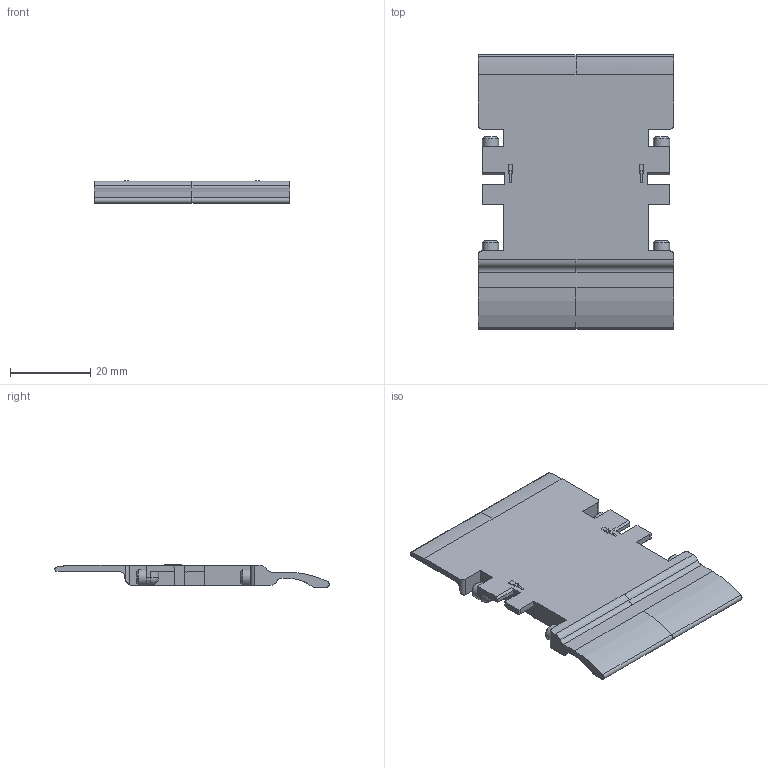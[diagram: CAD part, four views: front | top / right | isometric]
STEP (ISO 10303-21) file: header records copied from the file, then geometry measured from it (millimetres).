
FILE_DESCRIPTION((''),'2;1');
FILE_NAME('C:\Uebbing\PARAMETERKETTEN\KOLIBRI\Kol_50_065_5\Kol_50_065_5_Klappdeckel.stp','2011-11-02T13:09:38',('Uebbing'),(''),'Autodesk Inventor 10','Autodesk Inventor 10','');
FILE_SCHEMA(('AUTOMOTIVE_DESIGN { 1 0 10303 214 1 1 1 1 }'));
Length unit declared in the file: millimetre
Products named in the file (1): Kol_50_065_5_Klappdeckel
Bounding box: 48.6 x 68.34 x 5.7 mm (x, y, z)
Volume: 9853.6 mm3; surface area: 7218.5 mm2
Topology: 1 solids, 1 shells, 152 faces, 416 edges, 267 vertices
Faces by surface type: plane 96, cylinder 48, cone 6, sphere 2
Full cylindrical faces by diameter (mm): 4 x4
Entity records: 4752 total; most frequent: CARTESIAN_POINT 865, DIRECTION 809, ORIENTED_EDGE 808, EDGE_CURVE 404, VECTOR 293, LINE 293, VERTEX_POINT 262, AXIS2_PLACEMENT_3D 258
